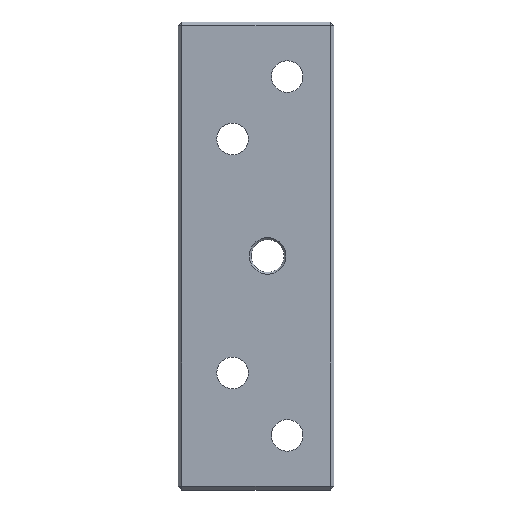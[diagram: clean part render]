
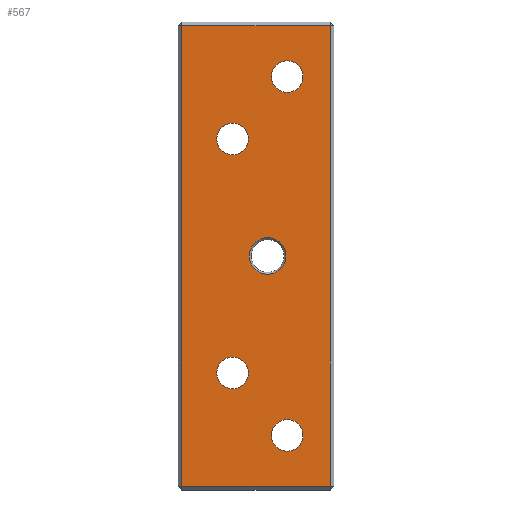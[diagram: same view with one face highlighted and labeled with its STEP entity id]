
A CAD part, top view. The second image highlights one B-rep face of the part: STEP entity #567.
In plain terms, the highlighted planar face has unit normal (0, 0, 1).
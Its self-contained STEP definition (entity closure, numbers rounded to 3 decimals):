
#21=FACE_BOUND('',#135,.T.);
#22=FACE_BOUND('',#136,.T.);
#23=FACE_BOUND('',#137,.T.);
#24=FACE_BOUND('',#138,.T.);
#25=FACE_BOUND('',#139,.T.);
#33=PLANE('',#629);
#98=FACE_OUTER_BOUND('',#134,.T.);
#134=EDGE_LOOP('',(#426,#427,#428,#429));
#135=EDGE_LOOP('',(#430));
#136=EDGE_LOOP('',(#431));
#137=EDGE_LOOP('',(#432));
#138=EDGE_LOOP('',(#433));
#139=EDGE_LOOP('',(#434));
#182=LINE('',#851,#238);
#183=LINE('',#853,#239);
#184=LINE('',#855,#240);
#185=LINE('',#856,#241);
#238=VECTOR('',#690,10.);
#239=VECTOR('',#691,10.);
#240=VECTOR('',#692,10.);
#241=VECTOR('',#693,10.);
#293=CIRCLE('',#626,4.688);
#296=CIRCLE('',#630,4.05);
#297=CIRCLE('',#631,4.05);
#298=CIRCLE('',#632,4.05);
#299=CIRCLE('',#633,4.05);
#309=VERTEX_POINT('',#841);
#312=VERTEX_POINT('',#849);
#313=VERTEX_POINT('',#850);
#314=VERTEX_POINT('',#852);
#315=VERTEX_POINT('',#854);
#316=VERTEX_POINT('',#857);
#317=VERTEX_POINT('',#859);
#318=VERTEX_POINT('',#861);
#319=VERTEX_POINT('',#863);
#349=EDGE_CURVE('',#309,#309,#293,.T.);
#353=EDGE_CURVE('',#312,#313,#182,.T.);
#354=EDGE_CURVE('',#314,#312,#183,.T.);
#355=EDGE_CURVE('',#315,#314,#184,.T.);
#356=EDGE_CURVE('',#313,#315,#185,.T.);
#357=EDGE_CURVE('',#316,#316,#296,.T.);
#358=EDGE_CURVE('',#317,#317,#297,.T.);
#359=EDGE_CURVE('',#318,#318,#298,.T.);
#360=EDGE_CURVE('',#319,#319,#299,.T.);
#426=ORIENTED_EDGE('',*,*,#353,.F.);
#427=ORIENTED_EDGE('',*,*,#354,.F.);
#428=ORIENTED_EDGE('',*,*,#355,.F.);
#429=ORIENTED_EDGE('',*,*,#356,.F.);
#430=ORIENTED_EDGE('',*,*,#357,.T.);
#431=ORIENTED_EDGE('',*,*,#358,.T.);
#432=ORIENTED_EDGE('',*,*,#359,.T.);
#433=ORIENTED_EDGE('',*,*,#360,.T.);
#434=ORIENTED_EDGE('',*,*,#349,.F.);
#567=ADVANCED_FACE('',(#98,#21,#22,#23,#24,#25),#33,.T.);
#626=AXIS2_PLACEMENT_3D('',#842,#681,#682);
#629=AXIS2_PLACEMENT_3D('',#848,#688,#689);
#630=AXIS2_PLACEMENT_3D('',#858,#694,#695);
#631=AXIS2_PLACEMENT_3D('',#860,#696,#697);
#632=AXIS2_PLACEMENT_3D('',#862,#698,#699);
#633=AXIS2_PLACEMENT_3D('',#864,#700,#701);
#681=DIRECTION('center_axis',(0.,0.,1.));
#682=DIRECTION('ref_axis',(-1.,0.,0.));
#688=DIRECTION('center_axis',(0.,0.,1.));
#689=DIRECTION('ref_axis',(1.,0.,0.));
#690=DIRECTION('',(0.,1.,0.));
#691=DIRECTION('',(-1.,0.,0.));
#692=DIRECTION('',(0.,-1.,0.));
#693=DIRECTION('',(1.,0.,0.));
#694=DIRECTION('center_axis',(0.,0.,-1.));
#695=DIRECTION('ref_axis',(1.,0.,0.));
#696=DIRECTION('center_axis',(0.,0.,-1.));
#697=DIRECTION('ref_axis',(1.,0.,0.));
#698=DIRECTION('center_axis',(0.,0.,-1.));
#699=DIRECTION('ref_axis',(-1.,0.,0.));
#700=DIRECTION('center_axis',(0.,0.,-1.));
#701=DIRECTION('ref_axis',(-1.,0.,0.));
#841=CARTESIAN_POINT('',(-0.312,-46.,10.));
#842=CARTESIAN_POINT('Origin',(-5.,-46.,10.));
#848=CARTESIAN_POINT('Origin',(-8.,-46.,10.));
#849=CARTESIAN_POINT('',(-27.,-105.,10.));
#850=CARTESIAN_POINT('',(-27.,13.,10.));
#851=CARTESIAN_POINT('',(-27.,-16.,10.));
#852=CARTESIAN_POINT('',(11.,-105.,10.));
#853=CARTESIAN_POINT('',(-18.,-105.,10.));
#854=CARTESIAN_POINT('',(11.,13.,10.));
#855=CARTESIAN_POINT('',(11.,-76.,10.));
#856=CARTESIAN_POINT('',(2.,13.,10.));
#857=CARTESIAN_POINT('',(-18.05,-16.,10.));
#858=CARTESIAN_POINT('Origin',(-14.,-16.,10.));
#859=CARTESIAN_POINT('',(-18.05,-76.,10.));
#860=CARTESIAN_POINT('Origin',(-14.,-76.,10.));
#861=CARTESIAN_POINT('',(4.05,0.,10.));
#862=CARTESIAN_POINT('Origin',(0.,0.,10.));
#863=CARTESIAN_POINT('',(4.05,-92.,10.));
#864=CARTESIAN_POINT('Origin',(0.,-92.,10.));
